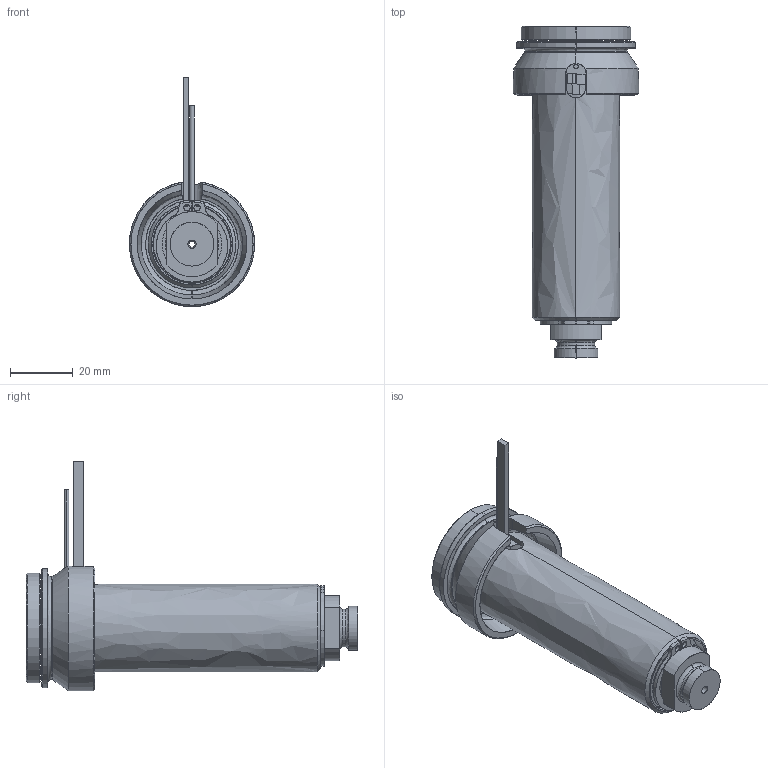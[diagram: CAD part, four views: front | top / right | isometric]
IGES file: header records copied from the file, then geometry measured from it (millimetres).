
Start section: SolidWorks IGES file using analytic representation for surfaces
Global section: file name: C:\Documents and Settings\ws-20\Desktop\TEMPORANEA\UGBE4002-S-A-3 [Ød-2.0 P-0 ØC-10].IGS; native system: SolidWorks 2012; preprocessor: SolidWorks 2012; author: ws-20; date: 120306.140658; units: millimetre
Bounding box: 40 x 106 x 73.3 mm (x, y, z)
Surface area: 33136.8 mm2 (no closed solid volume)
Topology: 0 solids, 0 shells, 109 faces, 1907 edges, 1907 vertices
Faces by surface type: revolution 66, bspline 43
